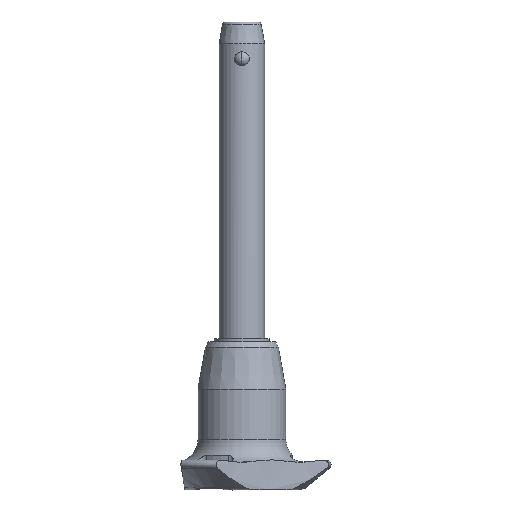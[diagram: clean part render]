
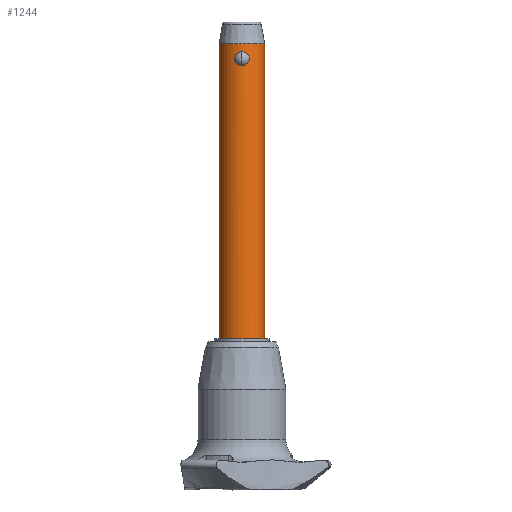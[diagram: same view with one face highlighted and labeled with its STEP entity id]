
A CAD part, front view. The second image highlights one B-rep face of the part: STEP entity #1244.
In plain terms, the highlighted cylindrical face has radius 5 mm (diameter 10 mm), a partial arc.
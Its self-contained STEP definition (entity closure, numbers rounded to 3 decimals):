
#49 = ORIENTED_EDGE ( 'NONE', *, *, #1519, .F. ) ;
#62 = CARTESIAN_POINT ( 'NONE',  ( -5., 0., -60. ) ) ;
#142 = CARTESIAN_POINT ( 'NONE',  ( -1.264, -4.838, 2.464 ) ) ;
#160 = B_SPLINE_CURVE_WITH_KNOTS ( 'NONE', 3,
 ( #1447, #2286, #385, #2081, #168, #2723, #819, #1667, #638, #243, #866, #1925, #2551, #2350, #2162, #2335, #1539, #893, #651, #209, #878, #2378, #1913, #456, #1716, #418 ),
 .UNSPECIFIED., .F., .F.,
 ( 4, 2, 2, 2, 2, 2, 2, 2, 2, 2, 2, 2, 4 ),
 ( 0.005, 0.006, 0.006, 0.006, 0.006, 0.007, 0.007, 0.008, 0.008, 0.009, 0.009, 0.009, 0.01 ),
 .UNSPECIFIED. ) ;
#167 = CARTESIAN_POINT ( 'NONE',  ( 5., 0., 4.8 ) ) ;
#168 = CARTESIAN_POINT ( 'NONE',  ( 0.792, -4.938, 0.19 ) ) ;
#169 = AXIS2_PLACEMENT_3D ( 'NONE', #1255, #1455, #797 ) ;
#173 = CARTESIAN_POINT ( 'NONE',  ( -0.7, -4.952, 2.888 ) ) ;
#186 = CARTESIAN_POINT ( 'NONE',  ( -0.792, -4.938, 0.19 ) ) ;
#197 = AXIS2_PLACEMENT_3D ( 'NONE', #2685, #777, #1435 ) ;
#199 = CARTESIAN_POINT ( 'NONE',  ( 0., -5., 3.033 ) ) ;
#209 = CARTESIAN_POINT ( 'NONE',  ( 1.048, -4.889, 2.676 ) ) ;
#227 = ORIENTED_EDGE ( 'NONE', *, *, #1933, .F. ) ;
#243 = CARTESIAN_POINT ( 'NONE',  ( 1.384, -4.805, 0.735 ) ) ;
#373 = CARTESIAN_POINT ( 'NONE',  ( -1.604, -4.736, 1.416 ) ) ;
#382 = CARTESIAN_POINT ( 'NONE',  ( 0., -5., 3.033 ) ) ;
#385 = CARTESIAN_POINT ( 'NONE',  ( 0.412, -4.987, 0.037 ) ) ;
#389 = CARTESIAN_POINT ( 'NONE',  ( -1.394, -4.802, 0.731 ) ) ;
#418 = CARTESIAN_POINT ( 'NONE',  ( 0., -5., 3.033 ) ) ;
#433 = DIRECTION ( 'NONE',  ( 1., 0., 0. ) ) ;
#442 = VERTEX_POINT ( 'NONE', #167 ) ;
#456 = CARTESIAN_POINT ( 'NONE',  ( 0.412, -4.987, 2.996 ) ) ;
#500 = DIRECTION ( 'NONE',  ( 0., 0., 1. ) ) ;
#530 = EDGE_LOOP ( 'NONE', ( #2049, #2223, #1597, #1103 ) ) ;
#538 = CARTESIAN_POINT ( 'NONE',  ( -5., 0., -60. ) ) ;
#580 = CARTESIAN_POINT ( 'NONE',  ( -1.604, -4.736, 1.724 ) ) ;
#606 = CARTESIAN_POINT ( 'NONE',  ( -0.965, -4.907, 2.738 ) ) ;
#620 = CARTESIAN_POINT ( 'NONE',  ( -1.383, -4.805, 2.299 ) ) ;
#638 = CARTESIAN_POINT ( 'NONE',  ( 1.265, -4.838, 0.57 ) ) ;
#651 = CARTESIAN_POINT ( 'NONE',  ( 1.272, -4.838, 2.47 ) ) ;
#695 = VERTEX_POINT ( 'NONE', #538 ) ;
#714 = EDGE_CURVE ( 'NONE', #1998, #695, #867, .T. ) ;
#777 = DIRECTION ( 'NONE',  ( 0., 0., -1. ) ) ;
#782 = VERTEX_POINT ( 'NONE', #1947 ) ;
#797 = DIRECTION ( 'NONE',  ( 1., 0., 0. ) ) ;
#811 = CARTESIAN_POINT ( 'NONE',  ( -0.412, -4.987, 2.997 ) ) ;
#812 = CYLINDRICAL_SURFACE ( 'NONE', #2697, 5. ) ;
#819 = CARTESIAN_POINT ( 'NONE',  ( 1.047, -4.89, 0.356 ) ) ;
#821 = CARTESIAN_POINT ( 'NONE',  ( -0.966, -4.907, 0.296 ) ) ;
#866 = CARTESIAN_POINT ( 'NONE',  ( 1.434, -4.79, 0.822 ) ) ;
#867 = CIRCLE ( 'NONE', #197, 5. ) ;
#878 = CARTESIAN_POINT ( 'NONE',  ( 0.966, -4.907, 2.738 ) ) ;
#893 = CARTESIAN_POINT ( 'NONE',  ( 1.395, -4.802, 2.301 ) ) ;
#1031 = CARTESIAN_POINT ( 'NONE',  ( -1.047, -4.89, 2.676 ) ) ;
#1056 = CARTESIAN_POINT ( 'NONE',  ( -0.791, -4.938, 2.844 ) ) ;
#1103 = ORIENTED_EDGE ( 'NONE', *, *, #2744, .T. ) ;
#1184 = VECTOR ( 'NONE', #1253, 1000. ) ;
#1185 = DIRECTION ( 'NONE',  ( 0., 0., 1. ) ) ;
#1209 = EDGE_LOOP ( 'NONE', ( #49, #227 ) ) ;
#1227 = CARTESIAN_POINT ( 'NONE',  ( -1.594, -4.739, 1.312 ) ) ;
#1244 = ADVANCED_FACE ( 'NONE', ( #1648, #2277 ), #812, .T. ) ;
#1253 = DIRECTION ( 'NONE',  ( 0., 0., 1. ) ) ;
#1255 = CARTESIAN_POINT ( 'NONE',  ( 0., 0., 4.8 ) ) ;
#1262 = EDGE_CURVE ( 'NONE', #1998, #442, #2326, .T. ) ;
#1283 = CARTESIAN_POINT ( 'NONE',  ( -5., 0., 4.8 ) ) ;
#1435 = DIRECTION ( 'NONE',  ( 1., 0., 0. ) ) ;
#1447 = CARTESIAN_POINT ( 'NONE',  ( 0., -5., 0. ) ) ;
#1450 = CARTESIAN_POINT ( 'NONE',  ( -0.412, -4.987, 0.037 ) ) ;
#1455 = DIRECTION ( 'NONE',  ( 0., 0., -1. ) ) ;
#1464 = CARTESIAN_POINT ( 'NONE',  ( 0., -5., 0. ) ) ;
#1465 = CARTESIAN_POINT ( 'NONE',  ( 0., 0., -60. ) ) ;
#1482 = CARTESIAN_POINT ( 'NONE',  ( 5., 0., -60. ) ) ;
#1519 = EDGE_CURVE ( 'NONE', #2368, #782, #2721, .T. ) ;
#1539 = CARTESIAN_POINT ( 'NONE',  ( 1.519, -4.764, 2.021 ) ) ;
#1589 = VECTOR ( 'NONE', #500, 1000. ) ;
#1597 = ORIENTED_EDGE ( 'NONE', *, *, #1262, .T. ) ;
#1647 = CARTESIAN_POINT ( 'NONE',  ( -0.205, -5., 0. ) ) ;
#1648 = FACE_OUTER_BOUND ( 'NONE', #530, .T. ) ;
#1660 = CARTESIAN_POINT ( 'NONE',  ( -1.519, -4.764, 1.013 ) ) ;
#1667 = CARTESIAN_POINT ( 'NONE',  ( 1.196, -4.855, 0.493 ) ) ;
#1684 = CARTESIAN_POINT ( 'NONE',  ( -0.699, -4.952, 0.145 ) ) ;
#1716 = CARTESIAN_POINT ( 'NONE',  ( 0.208, -5., 3.033 ) ) ;
#1879 = CARTESIAN_POINT ( 'NONE',  ( -1.272, -4.838, 0.564 ) ) ;
#1888 = CARTESIAN_POINT ( 'NONE',  ( -1.197, -4.855, 2.539 ) ) ;
#1913 = CARTESIAN_POINT ( 'NONE',  ( 0.7, -4.952, 2.888 ) ) ;
#1925 = CARTESIAN_POINT ( 'NONE',  ( 1.56, -4.751, 1.103 ) ) ;
#1933 = EDGE_CURVE ( 'NONE', #782, #2368, #160, .T. ) ;
#1947 = CARTESIAN_POINT ( 'NONE',  ( 0., -5., 0. ) ) ;
#1950 = CARTESIAN_POINT ( 'NONE',  ( 5., 0., -60. ) ) ;
#1996 = CIRCLE ( 'NONE', #169, 5. ) ;
#1998 = VERTEX_POINT ( 'NONE', #1950 ) ;
#2021 = LINE ( 'NONE', #62, #1589 ) ;
#2049 = ORIENTED_EDGE ( 'NONE', *, *, #2135, .F. ) ;
#2081 = CARTESIAN_POINT ( 'NONE',  ( 0.699, -4.952, 0.144 ) ) ;
#2135 = EDGE_CURVE ( 'NONE', #695, #2397, #2021, .T. ) ;
#2162 = CARTESIAN_POINT ( 'NONE',  ( 1.594, -4.739, 1.721 ) ) ;
#2223 = ORIENTED_EDGE ( 'NONE', *, *, #714, .F. ) ;
#2263 = CARTESIAN_POINT ( 'NONE',  ( -1.047, -4.89, 0.357 ) ) ;
#2276 = CARTESIAN_POINT ( 'NONE',  ( -1.551, -4.753, 1.11 ) ) ;
#2277 = FACE_BOUND ( 'NONE', #1209, .T. ) ;
#2286 = CARTESIAN_POINT ( 'NONE',  ( 0.205, -5., 0. ) ) ;
#2326 = LINE ( 'NONE', #1482, #1184 ) ;
#2335 = CARTESIAN_POINT ( 'NONE',  ( 1.551, -4.753, 1.922 ) ) ;
#2350 = CARTESIAN_POINT ( 'NONE',  ( 1.604, -4.736, 1.619 ) ) ;
#2368 = VERTEX_POINT ( 'NONE', #382 ) ;
#2378 = CARTESIAN_POINT ( 'NONE',  ( 0.792, -4.938, 2.844 ) ) ;
#2397 = VERTEX_POINT ( 'NONE', #1283 ) ;
#2551 = CARTESIAN_POINT ( 'NONE',  ( 1.604, -4.736, 1.308 ) ) ;
#2685 = CARTESIAN_POINT ( 'NONE',  ( 0., 0., -60. ) ) ;
#2697 = AXIS2_PLACEMENT_3D ( 'NONE', #1465, #1185, #433 ) ;
#2703 = CARTESIAN_POINT ( 'NONE',  ( -1.435, -4.79, 2.209 ) ) ;
#2714 = CARTESIAN_POINT ( 'NONE',  ( -0.208, -5., 3.033 ) ) ;
#2721 = B_SPLINE_CURVE_WITH_KNOTS ( 'NONE', 3,
 ( #199, #2714, #811, #173, #1056, #606, #1031, #1888, #142, #620, #2703, #2739, #580, #373, #1227, #2276, #1660, #389, #1879, #2263, #821, #186, #1684, #1450, #1647, #1464 ),
 .UNSPECIFIED., .F., .F.,
 ( 4, 2, 2, 2, 2, 2, 2, 2, 2, 2, 2, 2, 4 ),
 ( 0., 0.001, 0.001, 0.001, 0.002, 0.002, 0.002, 0.003, 0.003, 0.004, 0.004, 0.004, 0.005 ),
 .UNSPECIFIED. ) ;
#2723 = CARTESIAN_POINT ( 'NONE',  ( 0.966, -4.907, 0.296 ) ) ;
#2739 = CARTESIAN_POINT ( 'NONE',  ( -1.56, -4.751, 1.931 ) ) ;
#2744 = EDGE_CURVE ( 'NONE', #442, #2397, #1996, .T. ) ;
